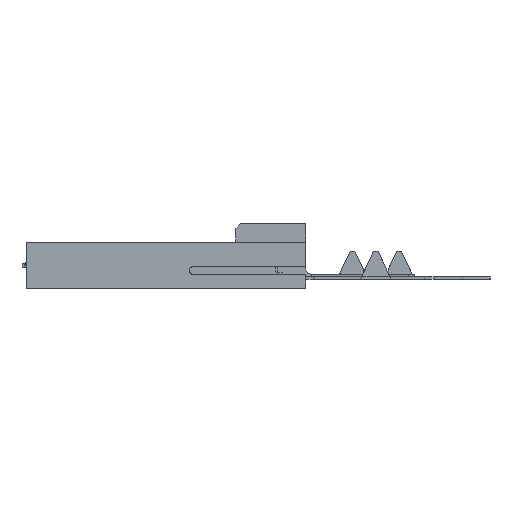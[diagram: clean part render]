
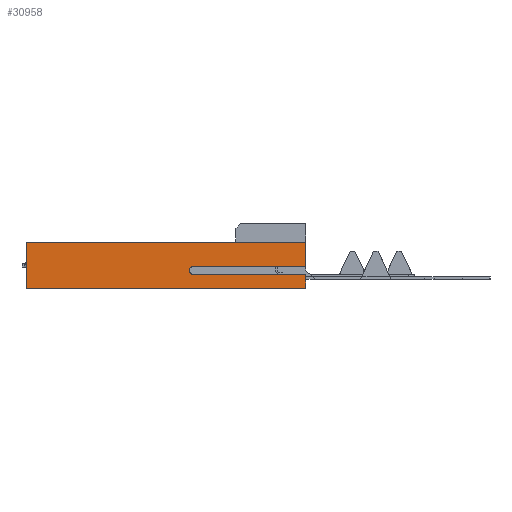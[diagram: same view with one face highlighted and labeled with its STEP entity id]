
A CAD part, left-side view. The second image highlights one B-rep face of the part: STEP entity #30958.
In plain terms, the highlighted planar face has unit normal (-1, 0, 0).
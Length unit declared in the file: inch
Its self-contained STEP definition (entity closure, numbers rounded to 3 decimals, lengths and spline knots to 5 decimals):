
#237=DIRECTION('',(0.,0.,1.));
#238=VECTOR('',#237,0.03);
#239=CARTESIAN_POINT('',(-0.7495,0.,0.));
#240=LINE('',#239,#238);
#973=DIRECTION('',(0.,0.,1.));
#974=VECTOR('',#973,0.052);
#975=CARTESIAN_POINT('',(-0.7495,0.,0.047));
#976=LINE('',#975,#974);
#1775=DIRECTION('',(0.,1.,0.));
#1776=VECTOR('',#1775,0.2415);
#1777=CARTESIAN_POINT('',(-0.7495,0.,0.03));
#1778=LINE('',#1777,#1776);
#1779=DIRECTION('',(0.,1.,0.));
#1780=VECTOR('',#1779,0.6);
#1781=CARTESIAN_POINT('',(-0.7495,0.,0.));
#1782=LINE('',#1781,#1780);
#1783=DIRECTION('',(0.,1.,0.));
#1784=VECTOR('',#1783,0.2415);
#1785=CARTESIAN_POINT('',(-0.7495,0.,0.047));
#1786=LINE('',#1785,#1784);
#1787=CARTESIAN_POINT('',(-0.7495,0.2415,0.0385));
#1788=DIRECTION('',(1.,0.,0.));
#1789=DIRECTION('',(0.,0.,-1.));
#1790=AXIS2_PLACEMENT_3D('',#1787,#1788,#1789);
#2020=DIRECTION('',(0.,0.,1.));
#2021=VECTOR('',#2020,0.099);
#2022=CARTESIAN_POINT('',(-0.7495,0.6,0.));
#2023=LINE('',#2022,#2021);
#3056=DIRECTION('',(0.,1.,0.));
#3057=VECTOR('',#3056,0.6);
#3058=CARTESIAN_POINT('',(-0.7495,0.,0.099));
#3059=LINE('',#3058,#3057);
#22209=CARTESIAN_POINT('',(-0.7495,0.6,0.));
#22210=CARTESIAN_POINT('',(-0.7495,0.6,0.099));
#22211=VERTEX_POINT('',#22209);
#22212=VERTEX_POINT('',#22210);
#22217=CARTESIAN_POINT('',(-0.7495,0.,0.));
#22218=VERTEX_POINT('',#22217);
#22219=CARTESIAN_POINT('',(-0.7495,0.,0.099));
#22220=VERTEX_POINT('',#22219);
#22229=CARTESIAN_POINT('',(-0.7495,0.,0.03));
#22230=CARTESIAN_POINT('',(-0.7495,0.2415,0.03));
#22231=VERTEX_POINT('',#22229);
#22232=VERTEX_POINT('',#22230);
#22233=CARTESIAN_POINT('',(-0.7495,0.2415,0.047));
#22234=VERTEX_POINT('',#22233);
#22235=CARTESIAN_POINT('',(-0.7495,0.,0.047));
#22236=VERTEX_POINT('',#22235);
#30941=CARTESIAN_POINT('',(-0.7495,0.,0.));
#30942=DIRECTION('',(-1.,0.,0.));
#30943=DIRECTION('',(0.,0.,1.));
#30944=AXIS2_PLACEMENT_3D('',#30941,#30942,#30943);
#30945=PLANE('',#30944);
#30946=ORIENTED_EDGE('',*,*,#30231,.F.);
#30947=ORIENTED_EDGE('',*,*,#29090,.F.);
#30948=ORIENTED_EDGE('',*,*,#30071,.T.);
#30950=ORIENTED_EDGE('',*,*,#30949,.T.);
#30952=ORIENTED_EDGE('',*,*,#30951,.F.);
#30953=ORIENTED_EDGE('',*,*,#29886,.F.);
#30954=ORIENTED_EDGE('',*,*,#30725,.T.);
#30955=ORIENTED_EDGE('',*,*,#30468,.F.);
#30956=EDGE_LOOP('',(#30946,#30947,#30948,#30950,#30952,#30953,#30954,#30955));
#30957=FACE_OUTER_BOUND('',#30956,.F.);
#30958=ADVANCED_FACE('',(#30957),#30945,.T.);
#1791=CIRCLE('',#1790,0.0085);
#29090=EDGE_CURVE('',#22218,#22231,#240,.T.);
#29886=EDGE_CURVE('',#22236,#22220,#976,.T.);
#30071=EDGE_CURVE('',#22218,#22211,#1782,.T.);
#30231=EDGE_CURVE('',#22231,#22232,#1778,.T.);
#30468=EDGE_CURVE('',#22232,#22234,#1791,.T.);
#30725=EDGE_CURVE('',#22236,#22234,#1786,.T.);
#30949=EDGE_CURVE('',#22211,#22212,#2023,.T.);
#30951=EDGE_CURVE('',#22220,#22212,#3059,.T.);
